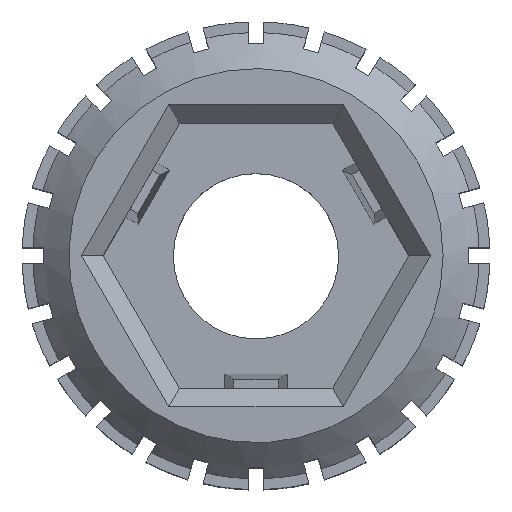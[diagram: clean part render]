
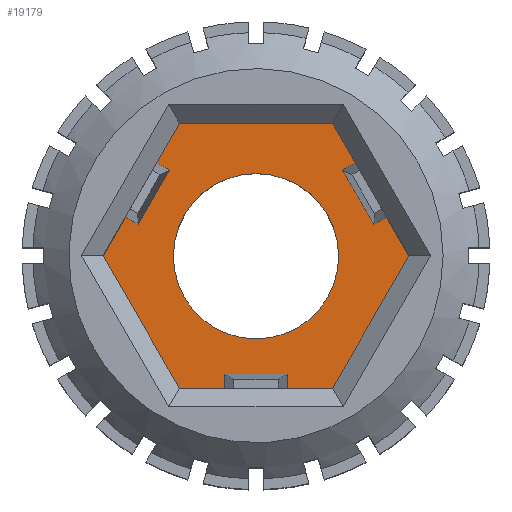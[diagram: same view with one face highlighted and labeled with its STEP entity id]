
A CAD part, top view. The second image highlights one B-rep face of the part: STEP entity #19179.
In plain terms, the highlighted planar face has unit normal (0, 0, 1).
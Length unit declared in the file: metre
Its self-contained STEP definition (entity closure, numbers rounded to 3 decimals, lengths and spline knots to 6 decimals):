
#1126=PLANE('',#20762);
#1744=CIRCLE('',#20748,0.00265);
#4388=ORIENTED_EDGE('',*,*,#9849,.F.);
#4389=ORIENTED_EDGE('',*,*,#9850,.T.);
#4390=ORIENTED_EDGE('',*,*,#9851,.T.);
#4391=ORIENTED_EDGE('',*,*,#9832,.T.);
#4392=ORIENTED_EDGE('',*,*,#9839,.T.);
#4393=ORIENTED_EDGE('',*,*,#9846,.T.);
#4394=ORIENTED_EDGE('',*,*,#9852,.F.);
#4395=ORIENTED_EDGE('',*,*,#9853,.T.);
#4396=ORIENTED_EDGE('',*,*,#9854,.T.);
#4397=ORIENTED_EDGE('',*,*,#9842,.T.);
#4398=ORIENTED_EDGE('',*,*,#9848,.T.);
#4399=ORIENTED_EDGE('',*,*,#9826,.T.);
#4400=ORIENTED_EDGE('',*,*,#9855,.F.);
#4401=ORIENTED_EDGE('',*,*,#9856,.T.);
#4402=ORIENTED_EDGE('',*,*,#9857,.T.);
#4403=ORIENTED_EDGE('',*,*,#9822,.T.);
#4404=ORIENTED_EDGE('',*,*,#9829,.T.);
#4405=ORIENTED_EDGE('',*,*,#9836,.T.);
#4406=ORIENTED_EDGE('',*,*,#9808,.F.);
#9808=EDGE_CURVE('',#12376,#12376,#1744,.T.);
#9822=EDGE_CURVE('',#12389,#12388,#13685,.T.);
#9826=EDGE_CURVE('',#12385,#12392,#13689,.T.);
#9829=EDGE_CURVE('',#12388,#12394,#13692,.T.);
#9832=EDGE_CURVE('',#12397,#12396,#13695,.T.);
#9836=EDGE_CURVE('',#12394,#12400,#13699,.T.);
#9839=EDGE_CURVE('',#12396,#12402,#13702,.T.);
#9842=EDGE_CURVE('',#12405,#12404,#13705,.T.);
#9846=EDGE_CURVE('',#12402,#12408,#13709,.T.);
#9848=EDGE_CURVE('',#12404,#12385,#13711,.T.);
#9849=EDGE_CURVE('',#12409,#12400,#13712,.T.);
#9850=EDGE_CURVE('',#12409,#12410,#13713,.T.);
#9851=EDGE_CURVE('',#12410,#12397,#13714,.T.);
#9852=EDGE_CURVE('',#12411,#12408,#13715,.T.);
#9853=EDGE_CURVE('',#12411,#12412,#13716,.T.);
#9854=EDGE_CURVE('',#12412,#12405,#13717,.T.);
#9855=EDGE_CURVE('',#12413,#12392,#13718,.T.);
#9856=EDGE_CURVE('',#12413,#12414,#13719,.T.);
#9857=EDGE_CURVE('',#12414,#12389,#13720,.T.);
#12376=VERTEX_POINT('',#31900);
#12385=VERTEX_POINT('',#31924);
#12388=VERTEX_POINT('',#31929);
#12389=VERTEX_POINT('',#31931);
#12392=VERTEX_POINT('',#31937);
#12394=VERTEX_POINT('',#31943);
#12396=VERTEX_POINT('',#31949);
#12397=VERTEX_POINT('',#31951);
#12400=VERTEX_POINT('',#31957);
#12402=VERTEX_POINT('',#31963);
#12404=VERTEX_POINT('',#31969);
#12405=VERTEX_POINT('',#31971);
#12408=VERTEX_POINT('',#31977);
#12409=VERTEX_POINT('',#31984);
#12410=VERTEX_POINT('',#31986);
#12411=VERTEX_POINT('',#31989);
#12412=VERTEX_POINT('',#31991);
#12413=VERTEX_POINT('',#31994);
#12414=VERTEX_POINT('',#31996);
#13685=LINE('',#31930,#15295);
#13689=LINE('',#31938,#15299);
#13692=LINE('',#31944,#15302);
#13695=LINE('',#31950,#15305);
#13699=LINE('',#31958,#15309);
#13702=LINE('',#31964,#15312);
#13705=LINE('',#31970,#15315);
#13709=LINE('',#31978,#15319);
#13711=LINE('',#31981,#15321);
#13712=LINE('',#31983,#15322);
#13713=LINE('',#31985,#15323);
#13714=LINE('',#31987,#15324);
#13715=LINE('',#31988,#15325);
#13716=LINE('',#31990,#15326);
#13717=LINE('',#31992,#15327);
#13718=LINE('',#31993,#15328);
#13719=LINE('',#31995,#15329);
#13720=LINE('',#31997,#15330);
#15295=VECTOR('',#24585,1.);
#15299=VECTOR('',#24589,1.);
#15302=VECTOR('',#24594,1.);
#15305=VECTOR('',#24599,1.);
#15309=VECTOR('',#24603,1.);
#15312=VECTOR('',#24608,1.);
#15315=VECTOR('',#24613,1.);
#15319=VECTOR('',#24617,1.);
#15321=VECTOR('',#24621,1.);
#15322=VECTOR('',#24624,1.);
#15323=VECTOR('',#24625,1.);
#15324=VECTOR('',#24626,1.);
#15325=VECTOR('',#24627,1.);
#15326=VECTOR('',#24628,1.);
#15327=VECTOR('',#24629,1.);
#15328=VECTOR('',#24630,1.);
#15329=VECTOR('',#24631,1.);
#15330=VECTOR('',#24632,1.);
#16349=EDGE_LOOP('',(#4388,#4389,#4390,#4391,#4392,#4393,#4394,#4395,#4396,
#4397,#4398,#4399,#4400,#4401,#4402,#4403,#4404,#4405));
#16350=EDGE_LOOP('',(#4406));
#17585=FACE_BOUND('',#16349,.T.);
#17586=FACE_BOUND('',#16350,.T.);
#19179=ADVANCED_FACE('',(#17585,#17586),#1126,.T.);
#20748=AXIS2_PLACEMENT_3D('',#31899,#24558,#24559);
#20762=AXIS2_PLACEMENT_3D('',#31982,#24622,#24623);
#24558=DIRECTION('',(0.,0.,1.));
#24559=DIRECTION('',(1.,0.,0.));
#24585=DIRECTION('',(-0.5,0.866,0.));
#24589=DIRECTION('',(-0.5,0.866,0.));
#24594=DIRECTION('',(-1.,0.,0.));
#24599=DIRECTION('',(-0.5,-0.866,0.));
#24603=DIRECTION('',(-0.5,-0.866,0.));
#24608=DIRECTION('',(0.5,-0.866,0.));
#24613=DIRECTION('',(1.,0.,0.));
#24617=DIRECTION('',(1.,0.,0.));
#24621=DIRECTION('',(0.5,0.866,0.));
#24622=DIRECTION('',(0.,0.,1.));
#24623=DIRECTION('',(1.,0.,0.));
#24624=DIRECTION('',(-0.866,0.5,0.));
#24625=DIRECTION('',(-0.5,-0.866,0.));
#24626=DIRECTION('',(-0.866,0.5,0.));
#24627=DIRECTION('',(0.,-1.,0.));
#24628=DIRECTION('',(1.,0.,0.));
#24629=DIRECTION('',(0.,-1.,0.));
#24630=DIRECTION('',(0.866,0.5,0.));
#24631=DIRECTION('',(-0.5,0.866,0.));
#24632=DIRECTION('',(0.866,0.5,0.));
#31899=CARTESIAN_POINT('',(0.,0.,0.002));
#31900=CARTESIAN_POINT('',(0.00265,0.,0.002));
#31924=CARTESIAN_POINT('',(0.004907,0.,0.002));
#31929=CARTESIAN_POINT('',(0.002454,0.00425,0.002));
#31930=CARTESIAN_POINT('',(0.003681,0.002125,0.002));
#31931=CARTESIAN_POINT('',(0.003181,0.002991,0.002));
#31937=CARTESIAN_POINT('',(0.004181,0.001259,0.002));
#31938=CARTESIAN_POINT('',(0.003681,0.002125,0.002));
#31943=CARTESIAN_POINT('',(-0.002454,0.00425,0.002));
#31944=CARTESIAN_POINT('',(0.,0.00425,0.002));
#31949=CARTESIAN_POINT('',(-0.004907,0.,0.002));
#31950=CARTESIAN_POINT('',(-0.003681,0.002125,0.002));
#31951=CARTESIAN_POINT('',(-0.004181,0.001259,0.002));
#31957=CARTESIAN_POINT('',(-0.003181,0.002991,0.002));
#31958=CARTESIAN_POINT('',(-0.003681,0.002125,0.002));
#31963=CARTESIAN_POINT('',(-0.002454,-0.00425,0.002));
#31964=CARTESIAN_POINT('',(-0.003681,-0.002125,0.002));
#31969=CARTESIAN_POINT('',(0.002454,-0.00425,0.002));
#31970=CARTESIAN_POINT('',(0.,-0.00425,0.002));
#31971=CARTESIAN_POINT('',(0.001,-0.00425,0.002));
#31977=CARTESIAN_POINT('',(-0.001,-0.00425,0.002));
#31978=CARTESIAN_POINT('',(0.,-0.00425,0.002));
#31981=CARTESIAN_POINT('',(0.003681,-0.002125,0.002));
#31982=CARTESIAN_POINT('',(0.,0.,0.002));
#31983=CARTESIAN_POINT('',(-0.003033,0.002906,0.002));
#31984=CARTESIAN_POINT('',(-0.002783,0.002762,0.002));
#31985=CARTESIAN_POINT('',(-0.003283,0.001895,0.002));
#31986=CARTESIAN_POINT('',(-0.003783,0.001029,0.002));
#31987=CARTESIAN_POINT('',(-0.004033,0.001173,0.002));
#31988=CARTESIAN_POINT('',(-0.001,-0.004079,0.002));
#31989=CARTESIAN_POINT('',(-0.001,-0.003791,0.002));
#31990=CARTESIAN_POINT('',(0.,-0.003791,0.002));
#31991=CARTESIAN_POINT('',(0.001,-0.003791,0.002));
#31992=CARTESIAN_POINT('',(0.001,-0.004079,0.002));
#31993=CARTESIAN_POINT('',(0.004033,0.001173,0.002));
#31994=CARTESIAN_POINT('',(0.003783,0.001029,0.002));
#31995=CARTESIAN_POINT('',(0.003283,0.001895,0.002));
#31996=CARTESIAN_POINT('',(0.002783,0.002762,0.002));
#31997=CARTESIAN_POINT('',(0.003033,0.002906,0.002));
